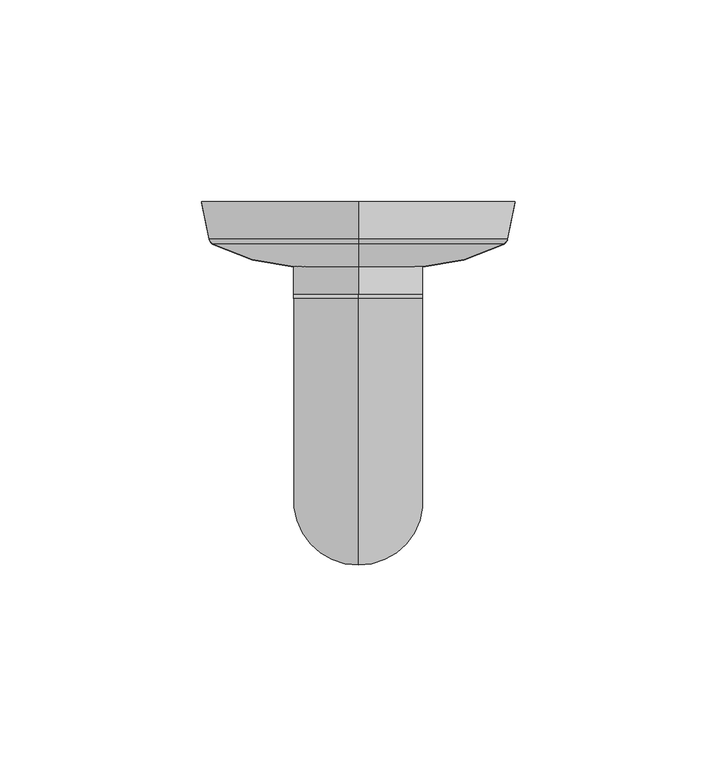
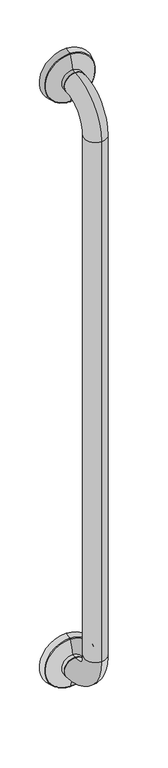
"""IFC4 building model written with IfcOpenShell, lengths in millimetres: proxy geometry, Grab Rail_Metlam_Straight_Vertical : 932long x 90d x 32w (ML333_1SS)."""

import ifcopenshell
import ifcopenshell.guid

model = None  # the IFC model being written
_history = None  # IfcOwnerHistory: only IFC2X3 demands one
_inside = {}  # id of a spatial element -> (the spatial element, [elements in it])
_under = {}  # id of a project, library or spatial element -> (it, [spatial elements below it])
_declared = {}  # id of a project -> (the project, [libraries it declares])
_typed = {}  # id of a type object -> (the type object, [elements of that type])
_made_of = {}  # id of a material, layer set ... -> (it, [elements and type objects made of it])


def new_model(schema):
    """Start an empty IFC model of exactly this schema.

    Asked for "IFC4X3", IfcOpenShell would pick the latest addendum, in which some entities
    have other attributes; the version numbers below select the first issue.
    IFC2X3 requires an IfcOwnerHistory on every rooted entity: one is made here for all.
    """
    global model, _history
    if schema == "IFC4X3":
        model = ifcopenshell.file(schema_version=(4, 3, 0, 0))
    else:
        model = ifcopenshell.file(schema=schema)
    _inside.clear()
    _under.clear()
    _declared.clear()
    _typed.clear()
    _made_of.clear()
    _history = None
    if model.schema == "IFC2X3":
        org = make("IfcOrganization", Name="unknown")
        user = make(
            "IfcPersonAndOrganization",
            ThePerson=make("IfcPerson", FamilyName="unknown"),
            TheOrganization=org,
        )
        app = make(
            "IfcApplication",
            ApplicationDeveloper=org,
            Version="unknown",
            ApplicationFullName="unknown",
            ApplicationIdentifier="unknown",
        )
        _history = make(
            "IfcOwnerHistory",
            OwningUser=user,
            OwningApplication=app,
            ChangeAction="ADDED",
            CreationDate=0,
        )
    return model


def make(cls, **values):
    """One entity of the class cls with the attributes given. An attribute that is None is left unset."""
    return model.create_entity(
        cls, **{name: value for name, value in values.items() if value is not None}
    )


def rooted(cls, **values):
    """An entity with a GlobalId (a new one), such as an element, a storey or a relation."""
    return make(cls, GlobalId=ifcopenshell.guid.new(), OwnerHistory=_history, **values)


def si_unit(unit_type, name, prefix=None):
    """IfcSIUnit, for example si_unit("LENGTHUNIT", "METRE", prefix="MILLI")."""
    return make("IfcSIUnit", UnitType=unit_type, Prefix=prefix, Name=name)


def assignment(units):
    """IfcUnitAssignment: the units of a project."""
    return None if units is None else make("IfcUnitAssignment", Units=units)


def point(xyz):
    """IfcCartesianPoint."""
    return None if xyz is None else make("IfcCartesianPoint", Coordinates=xyz)


def direction(xyz):
    """IfcDirection."""
    return None if xyz is None else make("IfcDirection", DirectionRatios=xyz)


def frame(location, z_axis=None, x_axis=None):
    """IfcAxis2Placement3D, a coordinate frame: its origin and axes. An axis left out is left unset."""
    return make(
        "IfcAxis2Placement3D",
        Location=point(location),
        Axis=direction(z_axis),
        RefDirection=direction(x_axis),
    )


def origin():
    """The frame at (0, 0, 0) with its axes left unset."""
    return frame((0.0, 0.0, 0.0))


def place(relative_to, where):
    """IfcLocalPlacement: puts the frame where relative to a parent placement (None: the world)."""
    return make(
        "IfcLocalPlacement", PlacementRelTo=relative_to, RelativePlacement=where
    )


def context(
    kind, dimensions, precision=None, world=None, true_north=None, identifier=None
):
    """IfcGeometricRepresentationContext, for example the 3D "Model" context."""
    return make(
        "IfcGeometricRepresentationContext",
        ContextIdentifier=identifier,
        ContextType=kind,
        CoordinateSpaceDimension=dimensions,
        Precision=precision,
        WorldCoordinateSystem=world,
        TrueNorth=true_north,
    )


def project(units=None, contexts=None):
    """IfcProject with its units and contexts."""
    return rooted(
        "IfcProject",
        Name="project",
        RepresentationContexts=contexts,
        UnitsInContext=assignment(units),
    )


def spatial(cls, under=None, at=None, **own):
    """A site, building, storey or space (cls), placed at a placement, below another one or the project."""
    s = rooted(cls, ObjectPlacement=at, **own)
    if under is not None:
        _under.setdefault(under.id(), (under, []))[1].append(s)
    return s


def polyline(points):
    """IfcPolyline through the points."""
    return make("IfcPolyline", Points=[point(p) for p in points])


def circle_curve(where, radius):
    """IfcCircle in the frame where."""
    return make("IfcCircle", Position=where, Radius=radius)


def ellipse_curve(where, semi_axis1, semi_axis2):
    """IfcEllipse in the frame where."""
    return make(
        "IfcEllipse", Position=where, SemiAxis1=semi_axis1, SemiAxis2=semi_axis2
    )


def trimmed(basis, trim1, trim2, sense, master):
    """IfcTrimmedCurve: the piece of a basis curve between two trims."""
    return make(
        "IfcTrimmedCurve",
        BasisCurve=basis,
        Trim1=trim1,
        Trim2=trim2,
        SenseAgreement=sense,
        MasterRepresentation=master,
    )


def shape(context_of_items, identifier, shape_type, items):
    """IfcShapeRepresentation: the items that make up one representation, for example the "Body"."""
    return make(
        "IfcShapeRepresentation",
        ContextOfItems=context_of_items,
        RepresentationIdentifier=identifier,
        RepresentationType=shape_type,
        Items=items,
    )


def source(mapping_origin, context_of_items, identifier, shape_type, items):
    """IfcRepresentationMap: a shape defined once, which mapped items show again and again."""
    return make(
        "IfcRepresentationMap",
        MappingOrigin=mapping_origin,
        MappedRepresentation=shape(context_of_items, identifier, shape_type, items),
    )


def transform(
    local_origin,
    x_axis=None,
    y_axis=None,
    z_axis=None,
    scale=None,
    scale2=None,
    scale3=None,
    uniform=True,
):
    """IfcCartesianTransformationOperator3D, or its non-uniform kind. x_axis, y_axis, z_axis: its Axis1, 2, 3."""
    if uniform:
        return make(
            "IfcCartesianTransformationOperator3D",
            Axis1=direction(x_axis),
            Axis2=direction(y_axis),
            LocalOrigin=point(local_origin),
            Scale=scale,
            Axis3=direction(z_axis),
        )
    return make(
        "IfcCartesianTransformationOperator3DnonUniform",
        Axis1=direction(x_axis),
        Axis2=direction(y_axis),
        LocalOrigin=point(local_origin),
        Scale=scale,
        Axis3=direction(z_axis),
        Scale2=scale2,
        Scale3=scale3,
    )


def mapped(mapping_source, mapping_target):
    """IfcMappedItem: shows the shape of a source again, moved by a transform."""
    return make(
        "IfcMappedItem", MappingSource=mapping_source, MappingTarget=mapping_target
    )


def made_of(thing, what):
    """Note that an element or type object is made of a material, layer set ...; save() writes the relation."""
    if what is not None:
        _made_of.setdefault(what.id(), (what, []))[1].append(thing)
    return thing


def element(
    cls,
    number,
    at=None,
    inside=None,
    cuts=None,
    type_object=None,
    material=None,
    context=None,
    identifier="Body",
    shape_type=None,
    held_by="IfcProductDefinitionShape",
    body=None,
    shapes=None,
    **own,
):
    """One element of the class cls, such as IfcWall. Its Tag is "e" and its number.

    at: its placement. inside: the storey or other place that contains it. cuts: it is an
    opening in that element (IfcRelVoidsElement). A single representation is given by context,
    identifier, shape_type and body (its items); several are given by shapes. held_by: the class
    of the entity that holds the representations. save() writes the other relations.
    """
    e = rooted(cls, Tag="e%d" % number, ObjectPlacement=at, **own)
    if body is not None:
        shapes = [shape(context, identifier, shape_type, body)]
    if shapes is not None:
        e.Representation = make(held_by, Representations=shapes)
    if inside is not None:
        _inside.setdefault(inside.id(), (inside, []))[1].append(e)
    if cuts is not None:
        rooted(
            "IfcRelVoidsElement", RelatingBuildingElement=cuts, RelatedOpeningElement=e
        )
    if type_object is not None:
        _typed.setdefault(type_object.id(), (type_object, []))[1].append(e)
    return made_of(e, material)


def aggregate(whole, parts):
    """IfcRelAggregates: a whole, such as a stair, and the parts it consists of."""
    return rooted("IfcRelAggregates", RelatingObject=whole, RelatedObjects=parts)


def save(model, path):
    """Write the relations noted so far, then the file.

    IfcRelAggregates (storeys below a building ...), IfcRelContainedInSpatialStructure (elements
    in a storey), IfcRelDefinesByType, IfcRelAssociatesMaterial and IfcRelDeclares: one each for
    every whole, place, type object, material and project.
    """
    for whole, parts in _under.values():
        aggregate(whole, parts)
    for where, things in _inside.values():
        rooted(
            "IfcRelContainedInSpatialStructure",
            RelatedElements=things,
            RelatingStructure=where,
        )
    for kind, things in _typed.values():
        rooted("IfcRelDefinesByType", RelatedObjects=things, RelatingType=kind)
    for what, things in _made_of.values():
        rooted("IfcRelAssociatesMaterial", RelatedObjects=things, RelatingMaterial=what)
    for by, libraries in _declared.values():
        rooted("IfcRelDeclares", RelatingContext=by, RelatedDefinitions=libraries)
    model.write(path)


def plane_surface(at):
    """IfcPlane: the flat surface through the origin of the frame at, square to its z axis."""
    return make("IfcPlane", Position=at)


def cylinder_surface(at, radius):
    """IfcCylindricalSurface: all points at the distance radius from the z axis of the frame at."""
    return make("IfcCylindricalSurface", Position=at, Radius=radius)


def revolved_surface(curve, axis_point, axis_direction):
    """IfcSurfaceOfRevolution: the curve turned about the line through axis_point along axis_direction."""
    return make(
        "IfcSurfaceOfRevolution",
        SweptCurve=make("IfcArbitraryOpenProfileDef", ProfileType="CURVE", Curve=curve),
        AxisPosition=make("IfcAxis1Placement", Location=point(axis_point), Axis=direction(axis_direction)),
    )


def advanced_brep(points, edges, surfaces, faces):
    """IfcAdvancedBrep: a solid bounded by faces that lie on surfaces and meet in shared edges.

    An edge is (start, end): straight between two places in points (the first is 0);
    or (start, end, curve); or (start, end, curve, False) where it runs against its curve.
    A face is (place in surfaces, loops), or (place, loops, False) where it looks against
    its surface's normal. A loop lists edges by number (the first is 1), with a minus sign
    where the edge is run from its end to its start. The first loop is the outer one.
    """
    corners = [point(p) for p in points]
    vertices = [make("IfcVertexPoint", VertexGeometry=c) for c in corners]
    made = []
    for start, end, *more in edges:
        made.append(
            make(
                "IfcEdgeCurve",
                EdgeStart=vertices[start],
                EdgeEnd=vertices[end],
                EdgeGeometry=more[0] if more else make("IfcPolyline", Points=[corners[start], corners[end]]),
                SameSense=more[1] if len(more) > 1 else True,
            )
        )
    hull = []
    for where, loops, *sense in faces:
        bounds = []
        for j, loop in enumerate(loops):
            ring = [make("IfcOrientedEdge", EdgeElement=made[abs(k) - 1], Orientation=k > 0) for k in loop]
            bounds.append(
                make(
                    "IfcFaceOuterBound" if j == 0 else "IfcFaceBound",
                    Bound=make("IfcEdgeLoop", EdgeList=ring),
                    Orientation=True,
                )
            )
        hull.append(make("IfcAdvancedFace", Bounds=bounds, FaceSurface=surfaces[where], SameSense=sense[0] if sense else True))
    return make("IfcAdvancedBrep", Outer=make("IfcClosedShell", CfsFaces=hull))


def specialty_equipment_4fe1ec2f(model_context):
    return source(origin(), model_context, "Body", "AdvancedBrep", [
        advanced_brep(
        [(0.0, -90.0, 834.0), (0.0, -24.0, 768.0), (0.0, -24.0, 800.0), (0.0, -58.0, 834.0), (0.0, -58.0, 1634.0), (0.0, -90.0, 1634.0), (0.0, -24.0, 1668.0), (0.0, -24.0, 1700.0), (0.0, -23.0, 768.0), (0.0, -23.0, 800.0), (0.0, -23.0, 1668.0), (0.0, -23.0, 1700.0), (0.0, 0.0, 1684.0), (0.0, 0.0, 1645.0), (0.0, 0.0, 1723.0), (0.0, -9.0646354, 1646.8129271), (0.0, -9.0646354, 1721.1870729), (0.0, -10.4521085, 1720.1384075), (0.0, -10.4521085, 1647.8615925), (0.0, -16.0065539, 1668.0), (0.0, -16.0065539, 1700.0), (0.0, -9.0646354, 746.8129271), (0.0, -9.0646354, 821.1870729), (0.0, 0.0, 823.0), (0.0, 0.0, 745.0), (0.0, -16.0065539, 768.0), (0.0, -16.0065539, 800.0), (0.0, -10.4521085, 820.1384075), (0.0, -10.4521085, 747.8615925), (0.0, 0.0, 784.0)],
        [
            (0, 1, circle_curve(frame((0.0, -24.0, 834.0), z_axis=(1.0, 0.0, 0.0), x_axis=(0.0, 0.0, -1.0)), 66.0)),
            (1, 2, circle_curve(frame((0.0, -24.0, 784.0), z_axis=(0.0, -1.0, 0.0), x_axis=(0.0, 0.0, -1.0)), 16.0)),
            (2, 3, circle_curve(frame((0.0, -24.0, 834.0), z_axis=(-1.0, 0.0, 0.0), x_axis=(0.0, 0.0, -1.0)), 34.0)),
            (3, 0, circle_curve(frame((0.0, -74.0, 834.0), z_axis=(0.0, 0.0, -1.0), x_axis=(0.0, -1.0, 0.0)), 16.0)),
            (0, 3, circle_curve(frame((0.0, -74.0, 834.0), z_axis=(0.0, 0.0, -1.0), x_axis=(0.0, -1.0, 0.0)), 16.0)),
            (2, 1, circle_curve(frame((0.0, -24.0, 784.0), z_axis=(0.0, -1.0, 0.0), x_axis=(0.0, 0.0, -1.0)), 16.0)),
            (3, 4),
            (4, 5, circle_curve(frame((0.0, -74.0, 1634.0), z_axis=(0.0, 0.0, -1.0), x_axis=(0.0, -1.0, 0.0)), 16.0)),
            (5, 0),
            (5, 4, circle_curve(frame((0.0, -74.0, 1634.0), z_axis=(0.0, 0.0, -1.0), x_axis=(0.0, -1.0, 0.0)), 16.0)),
            (4, 6, circle_curve(frame((0.0, -24.0, 1634.0), z_axis=(-1.0, 0.0, 0.0), x_axis=(0.0, -1.0, 0.0)), 34.0)),
            (6, 7, circle_curve(frame((0.0, -24.0, 1684.0), z_axis=(0.0, -1.0, 0.0), x_axis=(0.0, 0.0, 1.0)), 16.0)),
            (7, 5, circle_curve(frame((0.0, -24.0, 1634.0), z_axis=(1.0, 0.0, 0.0), x_axis=(0.0, -1.0, 0.0)), 66.0)),
            (7, 6, circle_curve(frame((0.0, -24.0, 1684.0), z_axis=(0.0, -1.0, 0.0), x_axis=(0.0, 0.0, 1.0)), 16.0)),
            (1, 8),
            (8, 9, circle_curve(frame((0.0, -23.0, 784.0), z_axis=(0.0, -1.0, 0.0), x_axis=(0.0, 0.0, -1.0)), 16.0)),
            (9, 2),
            (9, 8, circle_curve(frame((0.0, -23.0, 784.0), z_axis=(0.0, -1.0, 0.0), x_axis=(0.0, 0.0, -1.0)), 16.0)),
            (6, 10),
            (10, 11, circle_curve(frame((0.0, -23.0, 1684.0), z_axis=(0.0, -1.0, 0.0), x_axis=(0.0, 0.0, 1.0)), 16.0)),
            (11, 7),
            (11, 10, circle_curve(frame((0.0, -23.0, 1684.0), z_axis=(0.0, -1.0, 0.0), x_axis=(0.0, 0.0, 1.0)), 16.0)),
            (12, 13),
            (13, 14, circle_curve(frame((0.0, 0.0, 1684.0), z_axis=(0.0, 1.0, 0.0), x_axis=(0.0, 0.0, -1.0)), 39.0)),
            (14, 12),
            (14, 13, circle_curve(frame((0.0, 0.0, 1684.0), z_axis=(0.0, 1.0, 0.0), x_axis=(0.0, 0.0, -1.0)), 39.0)),
            (13, 15),
            (15, 16, circle_curve(frame((0.0, -9.0646354, 1684.0), z_axis=(0.0, 1.0, 0.0), x_axis=(0.0, 0.0, -1.0)), 37.1870729)),
            (16, 14),
            (16, 15, circle_curve(frame((0.0, -9.0646354, 1684.0), z_axis=(0.0, 1.0, 0.0), x_axis=(0.0, 0.0, -1.0)), 37.1870729)),
            (17, 18, circle_curve(frame((0.0, -10.4521085, 1684.0), z_axis=(0.0, -1.0, 0.0), x_axis=(0.0, 0.0, -1.0)), 36.1384075)),
            (18, 19, circle_curve(frame((0.0, 35.2834961, 1671.3112908), z_axis=(-1.0, 0.0, 0.0), x_axis=(0.0, 1.0, 0.0)), 51.3968275)),
            (19, 20, circle_curve(frame((0.0, -16.0065539, 1684.0), z_axis=(0.0, 1.0, 0.0), x_axis=(0.0, 0.0, -1.0)), 16.0)),
            (20, 17, circle_curve(frame((0.0, 35.2834961, 1696.6887092), z_axis=(-1.0, 0.0, 0.0), x_axis=(0.0, 1.0, 0.0)), 51.3968275)),
            (18, 17, circle_curve(frame((0.0, -10.4521085, 1684.0), z_axis=(0.0, -1.0, 0.0), x_axis=(0.0, 0.0, -1.0)), 36.1384075)),
            (20, 19, circle_curve(frame((0.0, -16.0065539, 1684.0), z_axis=(0.0, 1.0, 0.0), x_axis=(0.0, 0.0, -1.0)), 16.0)),
            (19, 10),
            (11, 20),
            (15, 18, circle_curve(frame((0.0, -8.6724031, 1648.7740884), z_axis=(-1.0, 0.0, 0.0), x_axis=(0.0, 1.0, 0.0)), 2.0)),
            (17, 16, circle_curve(frame((0.0, -8.6724031, 1719.2259116), z_axis=(-1.0, 0.0, 0.0), x_axis=(0.0, 1.0, 0.0)), 2.0)),
            (21, 22, circle_curve(frame((0.0, -9.0646354, 784.0), z_axis=(0.0, 1.0, 0.0), x_axis=(0.0, 0.0, 1.0)), 37.1870729)),
            (22, 23),
            (23, 24, circle_curve(frame((0.0, 0.0, 784.0), z_axis=(0.0, -1.0, 0.0), x_axis=(0.0, 0.0, 1.0)), 39.0)),
            (24, 21),
            (22, 21, circle_curve(frame((0.0, -9.0646354, 784.0), z_axis=(0.0, 1.0, 0.0), x_axis=(0.0, 0.0, 1.0)), 37.1870729)),
            (24, 23, circle_curve(frame((0.0, 0.0, 784.0), z_axis=(0.0, -1.0, 0.0), x_axis=(0.0, 0.0, 1.0)), 39.0)),
            (25, 26, circle_curve(frame((0.0, -16.0065539, 784.0), z_axis=(0.0, 1.0, 0.0), x_axis=(0.0, 0.0, 1.0)), 16.0)),
            (26, 27, circle_curve(frame((0.0, 35.2834961, 796.6887092), z_axis=(-1.0, 0.0, 0.0), x_axis=(0.0, 1.0, 0.0)), 51.3968275)),
            (27, 28, circle_curve(frame((0.0, -10.4521085, 784.0), z_axis=(0.0, -1.0, 0.0), x_axis=(0.0, 0.0, 1.0)), 36.1384075)),
            (28, 25, circle_curve(frame((0.0, 35.2834961, 771.3112908), z_axis=(-1.0, 0.0, 0.0), x_axis=(0.0, 1.0, 0.0)), 51.3968275)),
            (26, 25, circle_curve(frame((0.0, -16.0065539, 784.0), z_axis=(0.0, 1.0, 0.0), x_axis=(0.0, 0.0, 1.0)), 16.0)),
            (28, 27, circle_curve(frame((0.0, -10.4521085, 784.0), z_axis=(0.0, -1.0, 0.0), x_axis=(0.0, 0.0, 1.0)), 36.1384075)),
            (25, 8),
            (9, 26),
            (23, 29),
            (29, 24),
            (21, 28, circle_curve(frame((0.0, -8.6724031, 748.7740884), z_axis=(-1.0, 0.0, 0.0), x_axis=(0.0, 1.0, 0.0)), 2.0)),
            (27, 22, circle_curve(frame((0.0, -8.6724031, 819.2259116), z_axis=(-1.0, 0.0, 0.0), x_axis=(0.0, 1.0, 0.0)), 2.0)),
        ],
        [
            revolved_surface(trimmed(ellipse_curve(frame((0.0, -24.0, 784.0), z_axis=(0.0, 1.0, 0.0), x_axis=(0.0, 0.0, -1.0)), 16.0, 16.0), [point((0.0, -24.0, 800.0))], [point((0.0, -24.0, 768.0))], True, "CARTESIAN"), (0.0, -24.0, 834.0), (-1.0, 0.0, 0.0)),
            revolved_surface(trimmed(ellipse_curve(frame((0.0, -24.0, 784.0), z_axis=(0.0, 1.0, 0.0), x_axis=(0.0, 0.0, -1.0)), 16.0, 16.0), [point((0.0, -24.0, 768.0))], [point((0.0, -24.0, 800.0))], True, "CARTESIAN"), (0.0, -24.0, 834.0), (-1.0, 0.0, 0.0)),
            cylinder_surface(frame((0.0, -74.0, 834.0), z_axis=(0.0, 0.0, -1.0), x_axis=(0.0, -1.0, 0.0)), 16.0),
            revolved_surface(trimmed(ellipse_curve(frame((0.0, -74.0, 1634.0), z_axis=(0.0, 0.0, -1.0), x_axis=(0.0, -1.0, 0.0)), 16.0, 16.0), [point((0.0, -58.0, 1634.0))], [point((0.0, -90.0, 1634.0))], True, "CARTESIAN"), (0.0, -24.0, 1634.0), (-1.0, 0.0, 0.0)),
            revolved_surface(trimmed(ellipse_curve(frame((0.0, -74.0, 1634.0), z_axis=(0.0, 0.0, -1.0), x_axis=(0.0, -1.0, 0.0)), 16.0, 16.0), [point((0.0, -90.0, 1634.0))], [point((0.0, -58.0, 1634.0))], True, "CARTESIAN"), (0.0, -24.0, 1634.0), (-1.0, 0.0, 0.0)),
            cylinder_surface(frame((0.0, -23.0, 784.0), z_axis=(0.0, 1.0, 0.0), x_axis=(0.0, 0.0, -1.0)), 16.0),
            cylinder_surface(frame((0.0, -24.0, 1684.0), z_axis=(0.0, -1.0, 0.0), x_axis=(0.0, 0.0, 1.0)), 16.0),
            plane_surface(frame((0.0, 0.0, 1684.0), z_axis=(0.0, 1.0, 0.0), x_axis=(0.0, 0.0, -1.0))),
            revolved_surface(polyline([(0.0, -9.0646354, 1646.8129271), (0.0, 0.0, 1645.0)]), (0.0, -10.0, 1684.0), (0.0, 1.0, 0.0)),
            revolved_surface(trimmed(ellipse_curve(frame((0.0, 35.2834961, 1671.3112908), z_axis=(1.0, 0.0, 0.0), x_axis=(0.0, 1.0, 0.0)), 51.3968275, 51.3968275), [point((0.0, -16.0065539, 1668.0))], [point((0.0, -10.4521085, 1647.8615925))], True, "CARTESIAN"), (0.0, -10.0, 1684.0), (0.0, 1.0, 0.0)),
            cylinder_surface(frame((0.0, -10.0, 1684.0), z_axis=(0.0, 1.0, 0.0), x_axis=(0.0, 0.0, -1.0)), 16.0),
            revolved_surface(trimmed(ellipse_curve(frame((0.0, -8.6724031, 1648.7740884), z_axis=(1.0, 0.0, 0.0), x_axis=(0.0, 1.0, 0.0)), 2.0, 2.0), [point((0.0, -10.4521085, 1647.8615925))], [point((0.0, -9.0646354, 1646.8129271))], True, "CARTESIAN"), (0.0, -10.0, 1684.0), (0.0, 1.0, 0.0)),
            revolved_surface(polyline([(0.0, 0.0, 823.0), (0.0, -9.0646354, 821.1870729)]), (0.0, -10.0, 784.0), (0.0, -1.0, 0.0)),
            revolved_surface(trimmed(ellipse_curve(frame((0.0, 35.2834961, 796.6887092), z_axis=(1.0, 0.0, 0.0), x_axis=(0.0, 1.0, 0.0)), 51.3968275, 51.3968275), [point((0.0, -10.4521085, 820.1384075))], [point((0.0, -16.0065539, 800.0))], True, "CARTESIAN"), (0.0, -10.0, 784.0), (0.0, -1.0, 0.0)),
            cylinder_surface(frame((0.0, -10.0, 784.0), z_axis=(0.0, -1.0, 0.0), x_axis=(0.0, 0.0, 1.0)), 16.0),
            plane_surface(frame((0.0, 0.0, 784.0), z_axis=(0.0, 1.0, 0.0), x_axis=(0.0, 0.0, 1.0))),
            revolved_surface(trimmed(ellipse_curve(frame((0.0, -8.6724031, 819.2259116), z_axis=(1.0, 0.0, 0.0), x_axis=(0.0, 1.0, 0.0)), 2.0, 2.0), [point((0.0, -9.0646354, 821.1870729))], [point((0.0, -10.4521085, 820.1384075))], True, "CARTESIAN"), (0.0, -10.0, 784.0), (0.0, -1.0, 0.0)),
        ],
        [
            (0, [[1, 2, 3, 4]]),
            (1, [[-1, 5, -3, 6]]),
            (2, [[-4, 7, 8, 9]]),
            (2, [[-5, -9, 10, -7]]),
            (3, [[-8, 11, 12, 13]]),
            (4, [[-10, -13, 14, -11]]),
            (5, [[-2, 15, 16, 17]]),
            (5, [[-6, -17, 18, -15]]),
            (6, [[-12, 19, 20, 21]]),
            (6, [[-14, -21, 22, -19]]),
            (7, [[23, 24, 25]]),
            (7, [[-23, -25, 26]]),
            (8, [[-24, 27, 28, 29]]),
            (8, [[-26, -29, 30, -27]]),
            (9, [[31, 32, 33, 34]]),
            (9, [[-32, 35, -34, 36]]),
            (10, [[-33, 37, -22, 38]]),
            (10, [[-36, -38, -20, -37]]),
            (11, [[-28, 39, -31, 40]]),
            (11, [[-30, -40, -35, -39]]),
            (12, [[41, 42, 43, 44]]),
            (12, [[-42, 45, -44, 46]]),
            (13, [[47, 48, 49, 50]]),
            (13, [[-48, 51, -50, 52]]),
            (14, [[-47, 53, -18, 54]]),
            (14, [[-51, -54, -16, -53]]),
            (15, [[-43, 55, 56]]),
            (15, [[-46, -56, -55]]),
            (16, [[-41, 57, -49, 58]]),
            (16, [[-45, -58, -52, -57]]),
        ],
    ),
    ])


if __name__ == "__main__":
    model = new_model("IFC4")
    model_context = context("Model", 3, world=origin())
    ifc_project = project(units=[si_unit("LENGTHUNIT", "METRE", prefix="MILLI")], contexts=[model_context])
    site = spatial("IfcSite", under=ifc_project)
    building = spatial("IfcBuilding", under=site)
    placement = place(None, origin())
    specialty_equipment_shape = specialty_equipment_4fe1ec2f(model_context)
    element("IfcBuildingElementProxy", 1, Name="Grab Rail_Metlam_Straight_Vertical : 932long x 90d x 32w (ML333_1SS)", ObjectType="Grab Rail_Metlam_Straight_Vertical : 932long x 90d x 32w (ML333_1SS)", at=placement, inside=building, context=model_context, shape_type="MappedRepresentation", body=[
        mapped(specialty_equipment_shape, transform((0.0, 0.0, 0.0), x_axis=(1.0, 0.0, 0.0), y_axis=(0.0, 1.0, 0.0), z_axis=(0.0, 0.0, 1.0))),
    ])
    save(model, "model.ifc")
